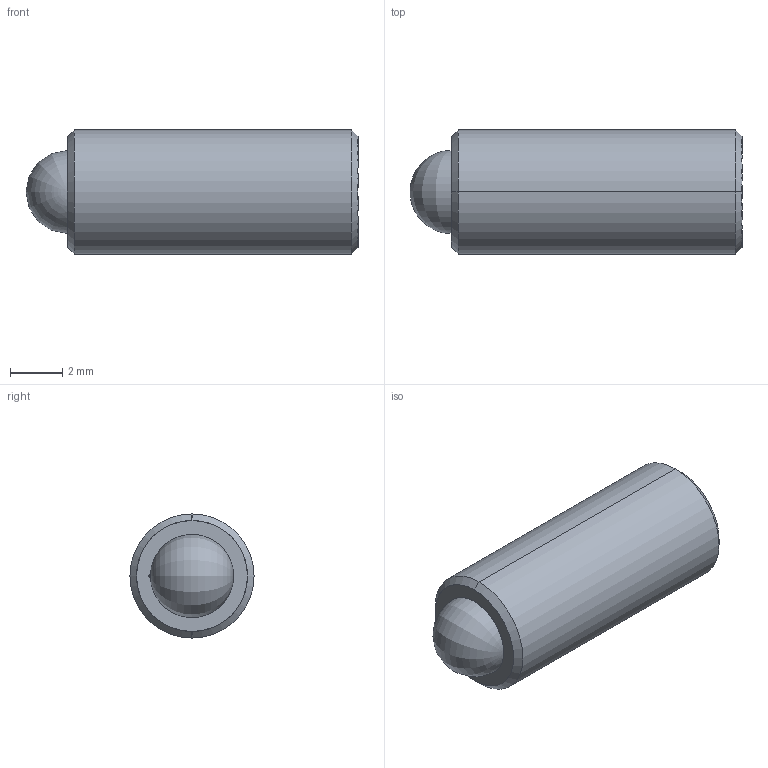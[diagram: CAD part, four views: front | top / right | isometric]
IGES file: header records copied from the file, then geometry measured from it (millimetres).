
Start section: SolidWorks IGES file using analytic representation for surfaces
Global section: file name: C:\Users\workpc\Desktop\KMA Solidworks\TS187-100 Series\TS187-100 High Vacuum\TS187-100-High Vacuum SLDPRT\TS187-100-500-HV.IGS; native system: SolidWorks 2013; preprocessor: SolidWorks 2013; author: workpc; date: 130509.082626; units: inch
Bounding box: 12.7 x 4.75 x 4.75 mm (x, y, z)
Surface area: 260 mm2 (no closed solid volume)
Topology: 0 solids, 0 shells, 24 faces, 240 edges, 236 vertices
Faces by surface type: revolution 14, bspline 10
